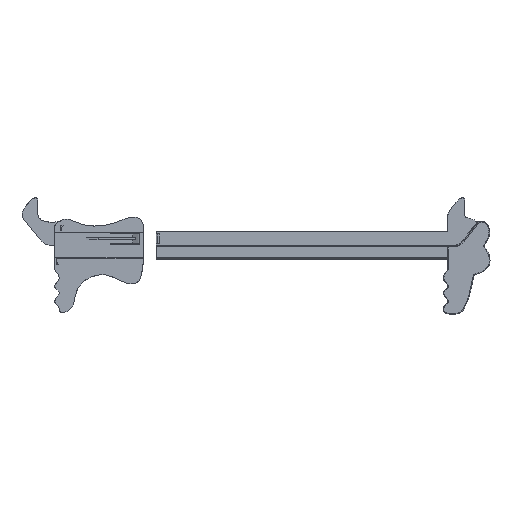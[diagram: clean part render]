
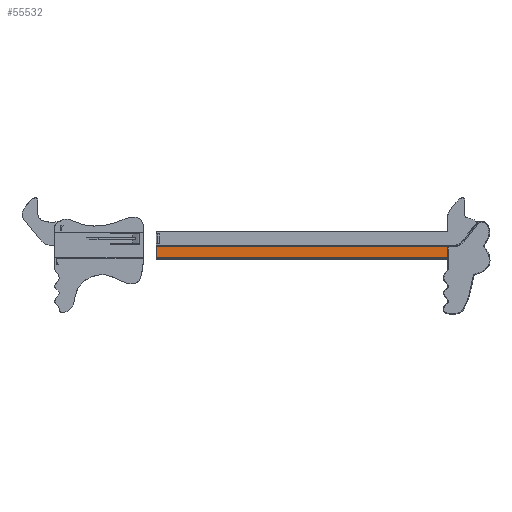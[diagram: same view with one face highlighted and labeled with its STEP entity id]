
A CAD part, top view. The second image highlights one B-rep face of the part: STEP entity #55532.
In plain terms, the highlighted planar face has unit normal (0, 0, 1).
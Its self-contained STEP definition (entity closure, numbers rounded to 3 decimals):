
#3136=FACE_OUTER_BOUND('',#6002,.T.);
#6002=EDGE_LOOP('',(#43339,#43340,#43341,#43342));
#10964=LINE('',#83472,#18074);
#10981=LINE('',#84327,#18091);
#10989=LINE('',#84593,#18099);
#10990=LINE('',#84594,#18100);
#18074=VECTOR('',#65198,10.);
#18091=VECTOR('',#65279,10.);
#18099=VECTOR('',#65303,10.);
#18100=VECTOR('',#65304,10.);
#24360=VERTEX_POINT('',#83454);
#24365=VERTEX_POINT('',#83470);
#24391=VERTEX_POINT('',#84326);
#24398=VERTEX_POINT('',#84592);
#31133=EDGE_CURVE('',#24360,#24365,#10964,.F.);
#31175=EDGE_CURVE('',#24391,#24360,#10981,.T.);
#31188=EDGE_CURVE('',#24365,#24398,#10989,.T.);
#31189=EDGE_CURVE('',#24391,#24398,#10990,.T.);
#43339=ORIENTED_EDGE('',*,*,#31175,.T.);
#43340=ORIENTED_EDGE('',*,*,#31133,.T.);
#43341=ORIENTED_EDGE('',*,*,#31188,.T.);
#43342=ORIENTED_EDGE('',*,*,#31189,.F.);
#53014=PLANE('',#58219);
#55532=ADVANCED_FACE('',(#3136),#53014,.F.);
#58219=AXIS2_PLACEMENT_3D('',#84591,#65301,#65302);
#65198=DIRECTION('',(1.,0.,0.));
#65279=DIRECTION('',(0.,1.,0.));
#65301=DIRECTION('center_axis',(0.,0.,-1.));
#65302=DIRECTION('ref_axis',(-1.,0.,0.));
#65303=DIRECTION('',(0.,-1.,0.));
#65304=DIRECTION('',(-1.,0.,0.));
#83454=CARTESIAN_POINT('',(429.598,8.212,8.));
#83470=CARTESIAN_POINT('',(209.598,8.212,8.));
#83472=CARTESIAN_POINT('',(377.671,8.212,8.));
#84326=CARTESIAN_POINT('',(429.598,-0.191,8.));
#84327=CARTESIAN_POINT('',(429.598,4.521,8.));
#84591=CARTESIAN_POINT('Origin',(443.863,0.958,8.));
#84592=CARTESIAN_POINT('',(209.598,-0.191,8.));
#84593=CARTESIAN_POINT('',(209.598,0.,8.));
#84594=CARTESIAN_POINT('',(264.598,-0.191,8.));
